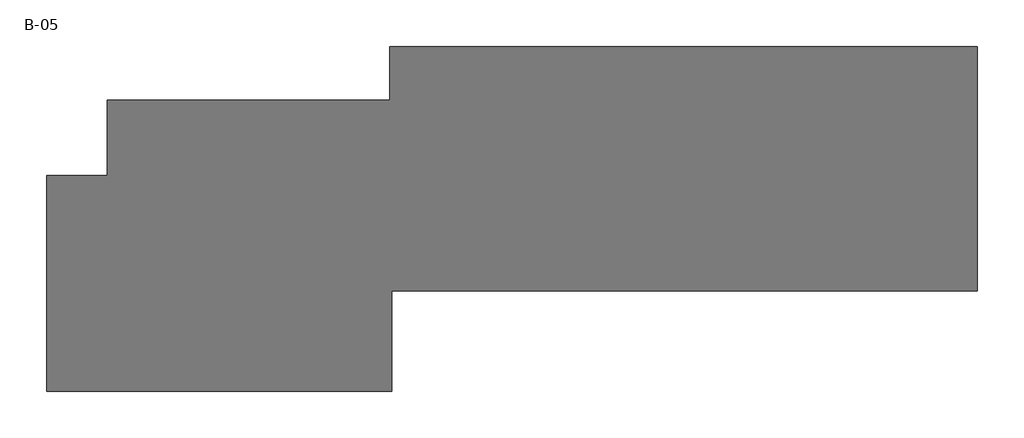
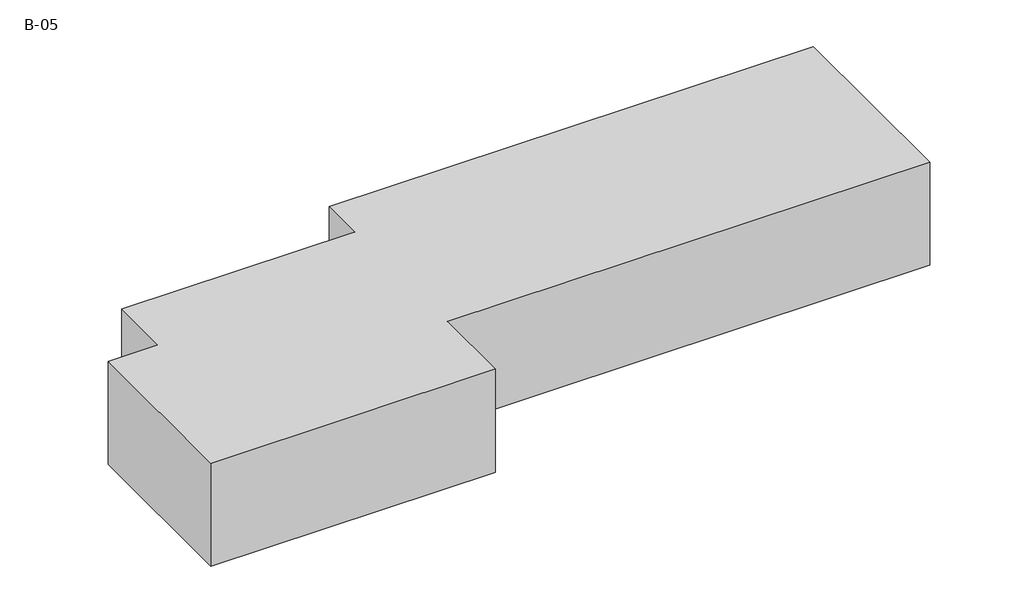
# One storey: 1 proxy.
"""IFC4 building model written with IfcOpenShell, lengths in millimetres."""

from ifc_helpers import new_model, si_unit, frame, origin, place, context, project, spatial, polyline, outline, extrude, element, save

model = new_model("IFC4")

# Units and contexts
model_context = context("Model", 3, world=origin())
ifc_project = project(units=[si_unit("LENGTHUNIT", "METRE", prefix="MILLI")], contexts=[model_context])

# Site, building, storey
site = spatial("IfcSite", under=ifc_project)
building = spatial("IfcBuilding", under=site)
storey = spatial("IfcBuildingStorey", under=building, Name="B-05", Elevation=-17300.0000314)

# Proxy
placement = place(None, origin())
element("IfcBuildingElementProxy", 1, Name="AJN-ARC-MASS BASEMENT : AJN-ARC-MASS BASEMENT", ObjectType="AJN-ARC-MASS BASEMENT : AJN-ARC-MASS BASEMENT", at=placement, inside=storey, context=model_context, shape_type="SweptSolid", body=[
    extrude(outline(polyline([(16800.0, 5400.0), (16800.0, 33600.0), (24700.0, 33600.0), (24700.0, 43500.0), (61600.0, 43500.0), (61600.0, 50500.0), (138400.0, 50500.0), (138400.0, 18550.0), (61900.0, 18550.0), (61900.0, 5400.0), (16800.0, 5400.0)])), frame((0.0, 0.0, -17300.0000314), z_axis=(0.0, 0.0, 1.0), x_axis=(1.0, 0.0, 0.0)), (0.0, 0.0, 1.0), 17300.0),
])

save(model, "model.ifc")
